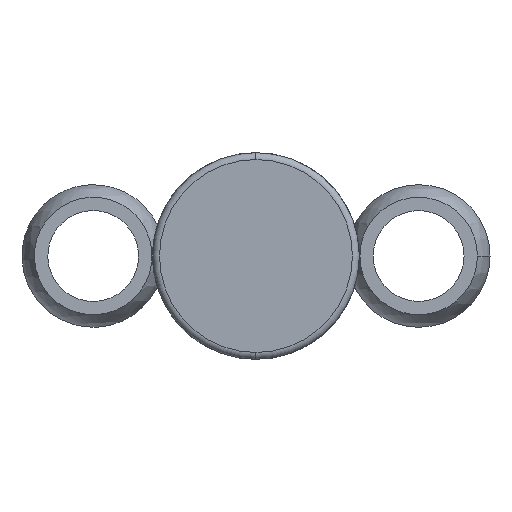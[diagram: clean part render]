
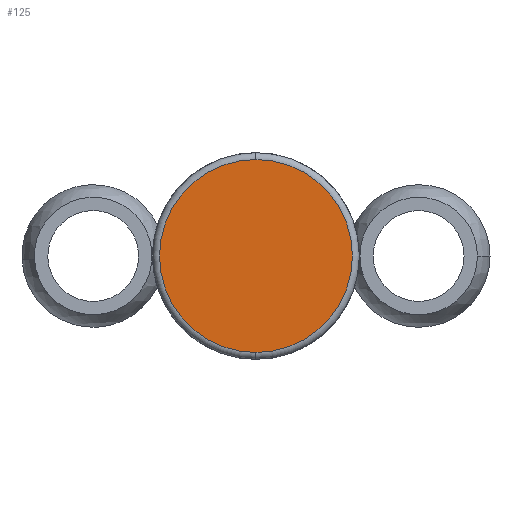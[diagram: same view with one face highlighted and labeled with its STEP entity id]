
A CAD part, front view. The second image highlights one B-rep face of the part: STEP entity #125.
In plain terms, the highlighted planar face has unit normal (0, -1, 0).
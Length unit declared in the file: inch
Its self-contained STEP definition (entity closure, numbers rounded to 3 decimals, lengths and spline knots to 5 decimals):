
#16 = DIRECTION ( 'NONE',  ( 0., 1., 0. ) ) ;
#55 = EDGE_CURVE ( 'NONE', #136, #156, #794, .T. ) ;
#125 = ADVANCED_FACE ( 'NONE', ( #563 ), #243, .F. ) ;
#136 = VERTEX_POINT ( 'NONE', #387 ) ;
#146 = DIRECTION ( 'NONE',  ( 0., -1., 0. ) ) ;
#156 = VERTEX_POINT ( 'NONE', #1146 ) ;
#161 = AXIS2_PLACEMENT_3D ( 'NONE', #520, #16, #902 ) ;
#198 = ORIENTED_EDGE ( 'NONE', *, *, #251, .T. ) ;
#243 = PLANE ( 'NONE',  #161 ) ;
#251 = EDGE_CURVE ( 'NONE', #156, #136, #408, .T. ) ;
#387 = CARTESIAN_POINT ( 'NONE',  ( 0., -1.575, -0.42276 ) ) ;
#408 = CIRCLE ( 'NONE', #816, 0.42276 ) ;
#467 = ORIENTED_EDGE ( 'NONE', *, *, #55, .T. ) ;
#488 = DIRECTION ( 'NONE',  ( 0., 0., 1. ) ) ;
#520 = CARTESIAN_POINT ( 'NONE',  ( 0., -1.575, 0. ) ) ;
#563 = FACE_OUTER_BOUND ( 'NONE', #1486, .T. ) ;
#794 = CIRCLE ( 'NONE', #1042, 0.42276 ) ;
#816 = AXIS2_PLACEMENT_3D ( 'NONE', #1165, #146, #932 ) ;
#902 = DIRECTION ( 'NONE',  ( 0., 0., 1. ) ) ;
#932 = DIRECTION ( 'NONE',  ( 0., 0., 1. ) ) ;
#1000 = DIRECTION ( 'NONE',  ( 0., -1., 0. ) ) ;
#1042 = AXIS2_PLACEMENT_3D ( 'NONE', #1231, #1000, #488 ) ;
#1146 = CARTESIAN_POINT ( 'NONE',  ( 0., -1.575, 0.42276 ) ) ;
#1165 = CARTESIAN_POINT ( 'NONE',  ( 0., -1.575, 0. ) ) ;
#1231 = CARTESIAN_POINT ( 'NONE',  ( 0., -1.575, 0. ) ) ;
#1486 = EDGE_LOOP ( 'NONE', ( #198, #467 ) ) ;
